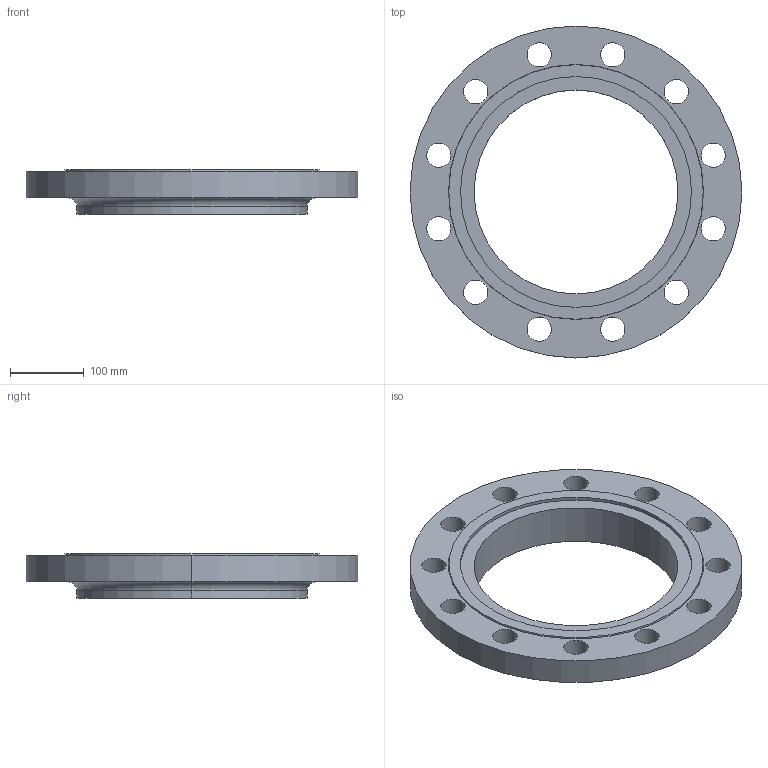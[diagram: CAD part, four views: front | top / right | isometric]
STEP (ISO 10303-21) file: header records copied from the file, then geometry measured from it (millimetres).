
FILE_DESCRIPTION (( 'STEP AP214' ), '1' );
FILE_NAME ('PN40 DN250 Type 12 - Type F Face.STEP', '2019-01-05T16:05:00', ( '' ), ( '' ), 'SwSTEP 2.0', 'SolidWorks 2019', '' );
FILE_SCHEMA (( 'AUTOMOTIVE_DESIGN' ));
Length unit declared in the file: millimetre
Products named in the file (1): PN40 DN250 Type 12 - Type F Face
Bounding box: 450 x 450 x 60 mm (x, y, z)
Volume: 3577430.4 mm3; surface area: 344183.9 mm2
Topology: 1 solids, 1 shells, 41 faces, 106 edges, 70 vertices
Faces by surface type: cylinder 32, plane 5, torus 2, cone 2
Entity records: 1382 total; most frequent: DIRECTION 262, CARTESIAN_POINT 218, ORIENTED_EDGE 212, AXIS2_PLACEMENT_3D 114, EDGE_CURVE 106, CIRCLE 72, EDGE_LOOP 70, VERTEX_POINT 70
